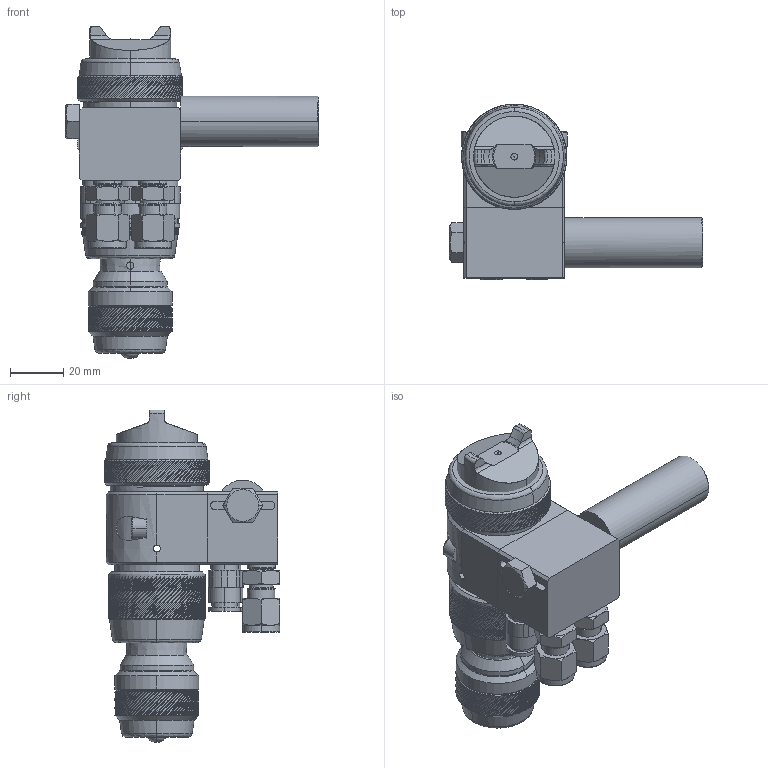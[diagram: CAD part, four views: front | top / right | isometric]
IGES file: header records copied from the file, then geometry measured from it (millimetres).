
Start section:  PTC IGES file: 24b857-en-v.igs
Global section: file name: 24b857-en-v.igs; native system: Creo Parametric by PTC Inc.; preprocessor: 2019030; author: qusrh3; organization: Unknown; date: 20191231.165031; units: inch
Bounding box: 95.09 x 65.86 x 124.63 mm (x, y, z)
Surface area: 43769.9 mm2 (no closed solid volume)
Topology: 0 solids, 0 shells, 1264 faces, 7026 edges, 7024 vertices
Faces by surface type: bspline 776, revolution 488
